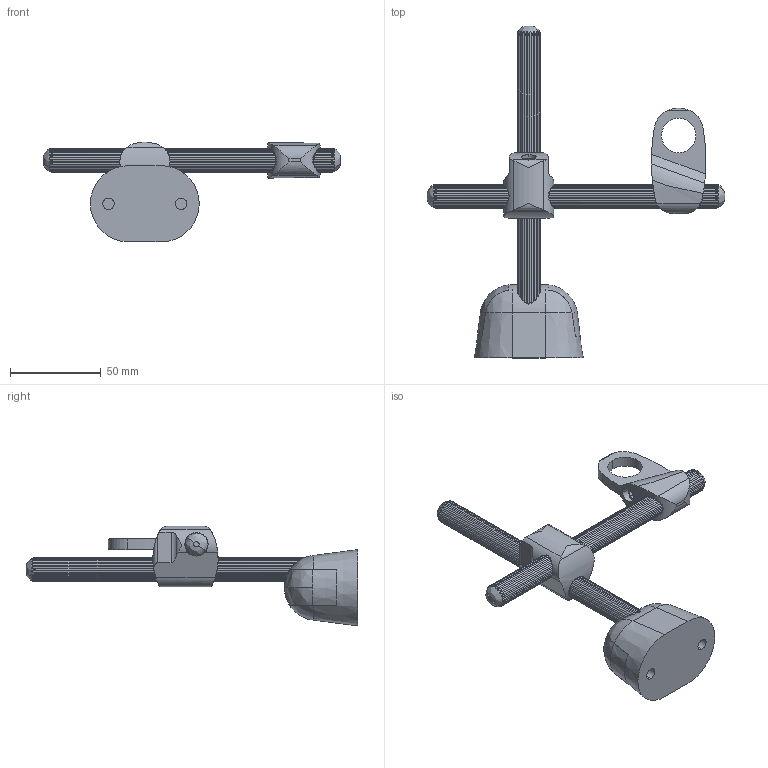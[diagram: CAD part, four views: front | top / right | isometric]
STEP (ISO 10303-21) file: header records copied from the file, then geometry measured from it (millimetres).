
FILE_DESCRIPTION (( 'STEP AP203' ), '1' );
FILE_NAME ('084.708.010.STEP', '2014-01-29T10:49:02', ( '' ), ( '' ), 'SwSTEP 2.0', 'SolidWorks 2012', '' );
FILE_SCHEMA (( 'CONFIG_CONTROL_DESIGN' ));
Length unit declared in the file: millimetre
Products named in the file (5): 084.708.010; 084.708.010-D; 084.708.010-C; 084.708.010-B; 084.708.010-A
Assembly tree (5 placements, depth 2):
  084.708.010
    084.708.010-A
    084.708.010-B  x2
    084.708.010-C
    084.708.010-D
Bounding box: 164 x 183 x 55 mm (x, y, z)
Volume: 108892.9 mm3; surface area: 49547.7 mm2
Topology: 5 solids, 7 shells, 470 faces, 1424 edges, 972 vertices
Faces by surface type: cylinder 378, plane 68, bspline 16, cone 8
Entity records: 16105 total; most frequent: CARTESIAN_POINT 6250, ORIENTED_EDGE 2296, DIRECTION 1490, EDGE_CURVE 1148, VERTEX_POINT 776, AXIS2_PLACEMENT_3D 541, B_SPLINE_CURVE_WITH_KNOTS 528, VECTOR 408
